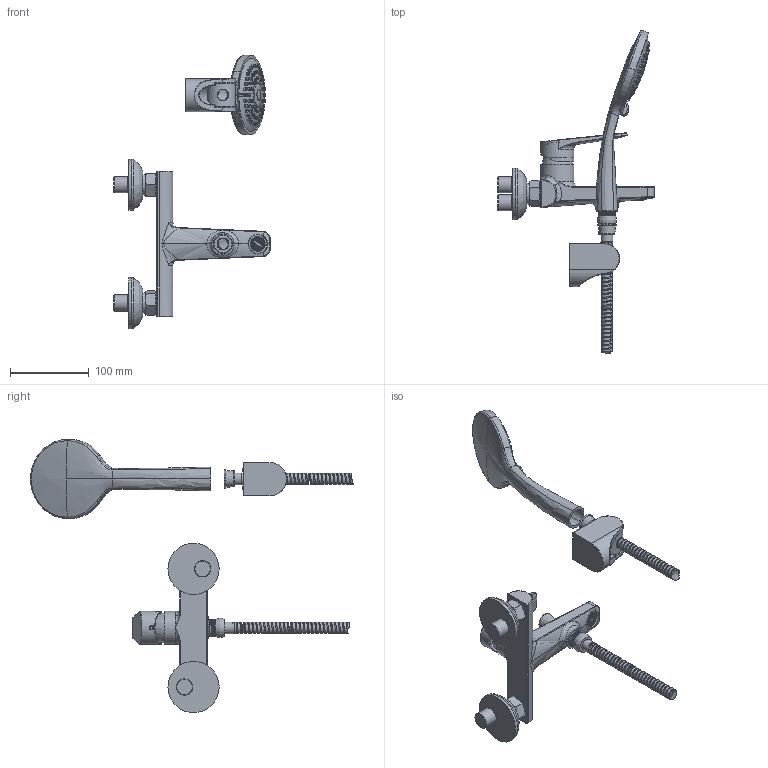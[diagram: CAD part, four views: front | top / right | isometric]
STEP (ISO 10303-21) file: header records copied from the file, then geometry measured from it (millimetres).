
FILE_DESCRIPTION(/* description */ (''),/* implementation_level */ '2;1');
FILE_NAME(/* name */ 'C:\Users\mlarrea\Desktop\3D-Z310-L6-CH.stp',/* time_stamp */ '2018-08-22T08:46:25-03:00',/* author */ ('mlarrea'),/* organization */ (''),/* preprocessor_version */ 'ST-DEVELOPER v17',/* originating_system */ 'Autodesk Inventor 2018',/* authorisation */ '');
FILE_SCHEMA (('AUTOMOTIVE_DESIGN { 1 0 10303 214 3 1 1 }'));
Length unit declared in the file: millimetre
Products named in the file (1): Pieza3
Bounding box: 198.5 x 409.91 x 346.75 mm (x, y, z)
Volume: 777296.1 mm3; surface area: 146747 mm2
Topology: 2 solids, 2 shells, 1565 faces, 4189 edges, 2795 vertices
Faces by surface type: plane 853, cylinder 299, bspline 294, cone 66, torus 28, sphere 25
Full cylindrical faces by diameter (mm): 3.6 x70, 5 x1, 11.2 x1, 12 x49, 14 x51, 14.3 x1, 15 x3, 18.75 x1, 20.2 x2, 20.5 x4, 20.7 x4, 23.8 x1, 24.5 x1, 26 x2, 37 x1, 42 x2, 65 x2
Entity records: 103693 total; most frequent: CARTESIAN_POINT 65306, ORIENTED_EDGE 8314, DIRECTION 6795, EDGE_CURVE 4157, VERTEX_POINT 2741, AXIS2_PLACEMENT_3D 2418, LINE 1959, VECTOR 1959
